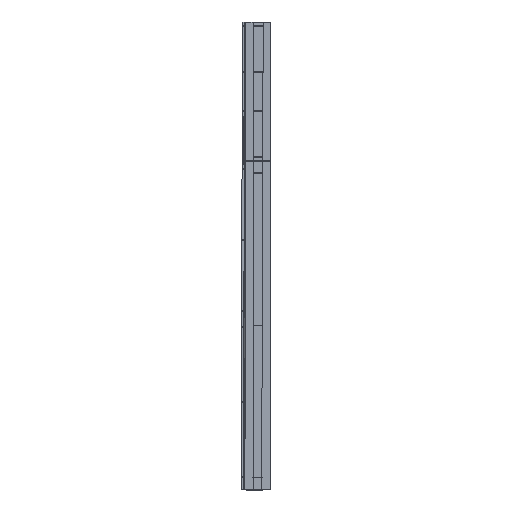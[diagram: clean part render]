
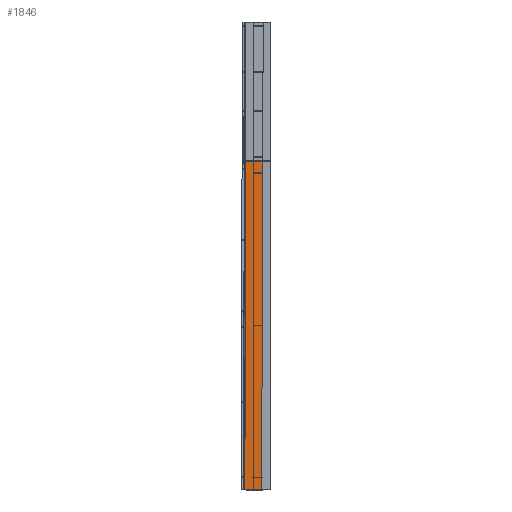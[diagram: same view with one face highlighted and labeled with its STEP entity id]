
A CAD part, top view. The second image highlights one B-rep face of the part: STEP entity #1846.
In plain terms, the highlighted planar face has unit normal (0, 0, 1).
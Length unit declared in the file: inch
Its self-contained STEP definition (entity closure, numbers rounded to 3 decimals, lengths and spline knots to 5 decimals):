
#67 = CIRCLE ( 'NONE', #5255, 0.09375 ) ;
#356 = AXIS2_PLACEMENT_3D ( 'NONE', #898, #878, #877 ) ;
#389 = CARTESIAN_POINT ( 'NONE',  ( 0.19646, 0., 0.038 ) ) ;
#430 = EDGE_LOOP ( 'NONE', ( #5341, #5949, #498, #5534, #5117, #4497 ) ) ;
#442 = EDGE_CURVE ( 'NONE', #4903, #2887, #4792, .T. ) ;
#477 = EDGE_CURVE ( 'NONE', #4306, #3576, #6289, .T. ) ;
#498 = ORIENTED_EDGE ( 'NONE', *, *, #1527, .T. ) ;
#528 = EDGE_CURVE ( 'NONE', #4550, #1456, #3731, .T. ) ;
#649 = EDGE_LOOP ( 'NONE', ( #3357, #5694 ) ) ;
#877 = DIRECTION ( 'NONE',  ( 1., 0., 0. ) ) ;
#878 = DIRECTION ( 'NONE',  ( 0., 0., -1. ) ) ;
#898 = CARTESIAN_POINT ( 'NONE',  ( 2.22323, 41.92575, 0.038 ) ) ;
#922 = DIRECTION ( 'NONE',  ( 1., 0., 0. ) ) ;
#930 = DIRECTION ( 'NONE',  ( 0., 0., -1. ) ) ;
#936 = CARTESIAN_POINT ( 'NONE',  ( 2.22323, 3., 0.038 ) ) ;
#1034 = DIRECTION ( 'NONE',  ( 1., 0., 0. ) ) ;
#1037 = DIRECTION ( 'NONE',  ( 0., 0., -1. ) ) ;
#1042 = CARTESIAN_POINT ( 'NONE',  ( 2.22323, 80.8515, 0.038 ) ) ;
#1049 = VECTOR ( 'NONE', #1204, 39.37008 ) ;
#1088 = CARTESIAN_POINT ( 'NONE',  ( 2.22323, 80.8515, 0.038 ) ) ;
#1094 = AXIS2_PLACEMENT_3D ( 'NONE', #2829, #2828, #2823 ) ;
#1115 = DIRECTION ( 'NONE',  ( 0., 1., 0. ) ) ;
#1123 = CARTESIAN_POINT ( 'NONE',  ( 4.375, 0., 0.038 ) ) ;
#1143 = CARTESIAN_POINT ( 'NONE',  ( 0.07146, 83.8515, 0.038 ) ) ;
#1204 = DIRECTION ( 'NONE',  ( -1., 0., 0. ) ) ;
#1229 = VECTOR ( 'NONE', #1280, 39.37008 ) ;
#1237 = CARTESIAN_POINT ( 'NONE',  ( 0.07146, 0., 0.038 ) ) ;
#1246 = EDGE_CURVE ( 'NONE', #5995, #3430, #4163, .T. ) ;
#1280 = DIRECTION ( 'NONE',  ( -1., 0., 0. ) ) ;
#1341 = EDGE_CURVE ( 'NONE', #5302, #1691, #1563, .T. ) ;
#1367 = CARTESIAN_POINT ( 'NONE',  ( 2.12948, 3., 0.038 ) ) ;
#1430 = EDGE_CURVE ( 'NONE', #4043, #2010, #4007, .T. ) ;
#1454 = CARTESIAN_POINT ( 'NONE',  ( 2.12948, 41.92575, 0.038 ) ) ;
#1456 = VERTEX_POINT ( 'NONE', #1454 ) ;
#1481 = CARTESIAN_POINT ( 'NONE',  ( 2.31698, 80.8515, 0.038 ) ) ;
#1505 = EDGE_CURVE ( 'NONE', #1691, #4043, #6428, .T. ) ;
#1517 = DIRECTION ( 'NONE',  ( 0., 1., 0. ) ) ;
#1527 = EDGE_CURVE ( 'NONE', #5302, #3430, #4950, .T. ) ;
#1529 = EDGE_CURVE ( 'NONE', #5995, #2010, #3473, .T. ) ;
#1546 = EDGE_CURVE ( 'NONE', #2887, #4903, #6587, .T. ) ;
#1547 = CARTESIAN_POINT ( 'NONE',  ( 0.07146, 83.8515, 0.038 ) ) ;
#1560 = EDGE_CURVE ( 'NONE', #3576, #4306, #67, .T. ) ;
#1563 = LINE ( 'NONE', #1795, #1744 ) ;
#1571 = EDGE_CURVE ( 'NONE', #1456, #4550, #1575, .T. ) ;
#1575 = CIRCLE ( 'NONE', #356, 0.09375 ) ;
#1630 = CARTESIAN_POINT ( 'NONE',  ( 4.375, 0., 0.038 ) ) ;
#1691 = VERTEX_POINT ( 'NONE', #389 ) ;
#1744 = VECTOR ( 'NONE', #1793, 39.37008 ) ;
#1793 = DIRECTION ( 'NONE',  ( -1., 0., 0. ) ) ;
#1795 = CARTESIAN_POINT ( 'NONE',  ( 0., 0., 0.038 ) ) ;
#1829 = VECTOR ( 'NONE', #2193, 39.37008 ) ;
#1846 = ADVANCED_FACE ( 'NONE', ( #2019, #5565, #5936, #6112 ), #6281, .F. ) ;
#2010 = VERTEX_POINT ( 'NONE', #6025 ) ;
#2019 = FACE_OUTER_BOUND ( 'NONE', #430, .T. ) ;
#2108 = ORIENTED_EDGE ( 'NONE', *, *, #1546, .T. ) ;
#2111 = EDGE_LOOP ( 'NONE', ( #6097, #2108 ) ) ;
#2137 = DIRECTION ( 'NONE',  ( -1., 0., 0. ) ) ;
#2193 = DIRECTION ( 'NONE',  ( 1., 0., 0. ) ) ;
#2205 = CARTESIAN_POINT ( 'NONE',  ( 0., 83.8515, 0.038 ) ) ;
#2333 = CARTESIAN_POINT ( 'NONE',  ( 0.19646, 83.8515, 0.038 ) ) ;
#2823 = DIRECTION ( 'NONE',  ( 1., 0., 0. ) ) ;
#2828 = DIRECTION ( 'NONE',  ( 0., 0., -1. ) ) ;
#2829 = CARTESIAN_POINT ( 'NONE',  ( 2.22323, 41.92575, 0.038 ) ) ;
#2887 = VERTEX_POINT ( 'NONE', #3919 ) ;
#3279 = DIRECTION ( 'NONE',  ( 1., 0., 0. ) ) ;
#3282 = CARTESIAN_POINT ( 'NONE',  ( 2.22323, 3., 0.038 ) ) ;
#3330 = DIRECTION ( 'NONE',  ( 0., 0., -1. ) ) ;
#3357 = ORIENTED_EDGE ( 'NONE', *, *, #528, .T. ) ;
#3430 = VERTEX_POINT ( 'NONE', #6396 ) ;
#3473 = LINE ( 'NONE', #1143, #1229 ) ;
#3576 = VERTEX_POINT ( 'NONE', #1367 ) ;
#3707 = EDGE_LOOP ( 'NONE', ( #6299, #6647 ) ) ;
#3731 = CIRCLE ( 'NONE', #1094, 0.09375 ) ;
#3816 = DIRECTION ( 'NONE',  ( 0., 0., -1. ) ) ;
#3919 = CARTESIAN_POINT ( 'NONE',  ( 2.12948, 80.8515, 0.038 ) ) ;
#4007 = LINE ( 'NONE', #1547, #5370 ) ;
#4043 = VERTEX_POINT ( 'NONE', #4654 ) ;
#4163 = LINE ( 'NONE', #2205, #1829 ) ;
#4306 = VERTEX_POINT ( 'NONE', #4769 ) ;
#4482 = AXIS2_PLACEMENT_3D ( 'NONE', #1042, #1037, #1034 ) ;
#4497 = ORIENTED_EDGE ( 'NONE', *, *, #1430, .F. ) ;
#4550 = VERTEX_POINT ( 'NONE', #5991 ) ;
#4654 = CARTESIAN_POINT ( 'NONE',  ( 0.07146, 0., 0.038 ) ) ;
#4769 = CARTESIAN_POINT ( 'NONE',  ( 2.31698, 3., 0.038 ) ) ;
#4785 = VECTOR ( 'NONE', #1115, 39.37008 ) ;
#4792 = CIRCLE ( 'NONE', #6001, 0.09375 ) ;
#4903 = VERTEX_POINT ( 'NONE', #1481 ) ;
#4950 = LINE ( 'NONE', #1123, #4785 ) ;
#5117 = ORIENTED_EDGE ( 'NONE', *, *, #1529, .T. ) ;
#5255 = AXIS2_PLACEMENT_3D ( 'NONE', #936, #930, #922 ) ;
#5302 = VERTEX_POINT ( 'NONE', #1630 ) ;
#5341 = ORIENTED_EDGE ( 'NONE', *, *, #1505, .F. ) ;
#5370 = VECTOR ( 'NONE', #1517, 39.37008 ) ;
#5534 = ORIENTED_EDGE ( 'NONE', *, *, #1246, .F. ) ;
#5565 = FACE_BOUND ( 'NONE', #2111, .T. ) ;
#5621 = DIRECTION ( 'NONE',  ( 1., 0., 0. ) ) ;
#5685 = DIRECTION ( 'NONE',  ( 0., 0., -1. ) ) ;
#5694 = ORIENTED_EDGE ( 'NONE', *, *, #1571, .T. ) ;
#5707 = CARTESIAN_POINT ( 'NONE',  ( 0., 83.8515, 0.038 ) ) ;
#5936 = FACE_BOUND ( 'NONE', #3707, .T. ) ;
#5949 = ORIENTED_EDGE ( 'NONE', *, *, #1341, .F. ) ;
#5991 = CARTESIAN_POINT ( 'NONE',  ( 2.31698, 41.92575, 0.038 ) ) ;
#5995 = VERTEX_POINT ( 'NONE', #2333 ) ;
#6001 = AXIS2_PLACEMENT_3D ( 'NONE', #1088, #3816, #5621 ) ;
#6025 = CARTESIAN_POINT ( 'NONE',  ( 0.07146, 83.8515, 0.038 ) ) ;
#6097 = ORIENTED_EDGE ( 'NONE', *, *, #442, .T. ) ;
#6112 = FACE_BOUND ( 'NONE', #649, .T. ) ;
#6139 = AXIS2_PLACEMENT_3D ( 'NONE', #3282, #3330, #3279 ) ;
#6281 = PLANE ( 'NONE',  #6619 ) ;
#6289 = CIRCLE ( 'NONE', #6139, 0.09375 ) ;
#6299 = ORIENTED_EDGE ( 'NONE', *, *, #477, .T. ) ;
#6396 = CARTESIAN_POINT ( 'NONE',  ( 4.375, 83.8515, 0.038 ) ) ;
#6428 = LINE ( 'NONE', #1237, #1049 ) ;
#6587 = CIRCLE ( 'NONE', #4482, 0.09375 ) ;
#6619 = AXIS2_PLACEMENT_3D ( 'NONE', #5707, #5685, #2137 ) ;
#6647 = ORIENTED_EDGE ( 'NONE', *, *, #1560, .T. ) ;
